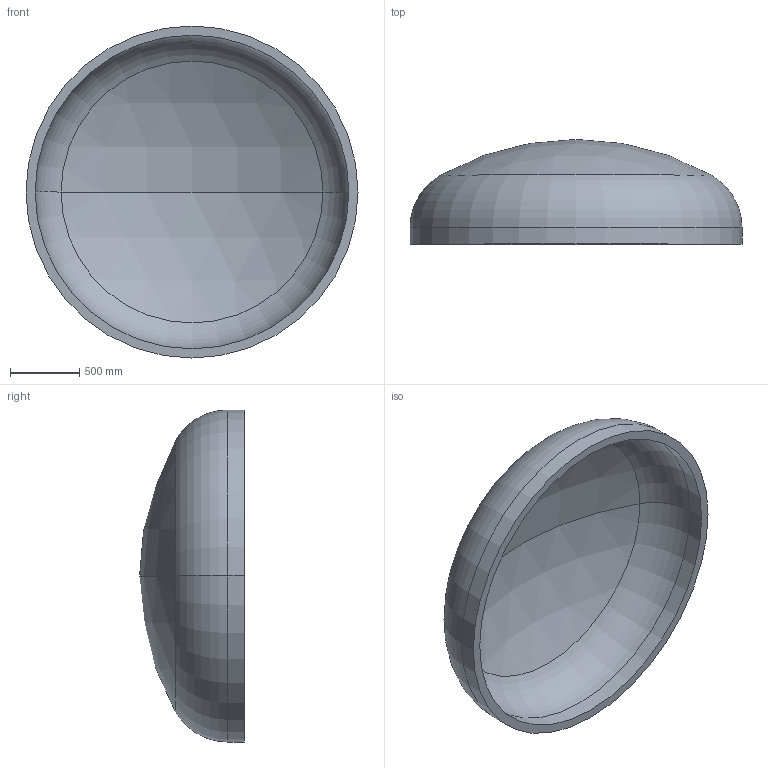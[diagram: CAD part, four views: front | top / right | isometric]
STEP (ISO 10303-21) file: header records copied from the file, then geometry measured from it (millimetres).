
FILE_DESCRIPTION (( 'STEP AP203' ), '1' );
FILE_NAME ('DIN 28013 Korbbogenform_-_Boden DIN 28013 - 2400 x 120 - I - s=66.step', '2016-07-01T15:31:26', ( '' ), ( '' ), 'SwSTEP 2.0', 'SolidWorks 2013', '' );
FILE_SCHEMA (( 'CONFIG_CONTROL_DESIGN' ));
Length unit declared in the file: millimetre
Products named in the file (1): DIN 28013 Korbbogenform_-_Boden DIN 28013 - 2400 x 120 - I - s=66
Bounding box: 2400 x 757.37 x 2400 mm (x, y, z)
Volume: 457062948.7 mm3; surface area: 14343454.7 mm2
Topology: 1 solids, 1 shells, 13 faces, 24 edges, 14 vertices
Faces by surface type: torus 4, cylinder 4, sphere 4, plane 1
Entity records: 407 total; most frequent: DIRECTION 72, CARTESIAN_POINT 52, ORIENTED_EDGE 48, AXIS2_PLACEMENT_3D 34, EDGE_CURVE 24, CIRCLE 20, EDGE_LOOP 14, VERTEX_POINT 14
